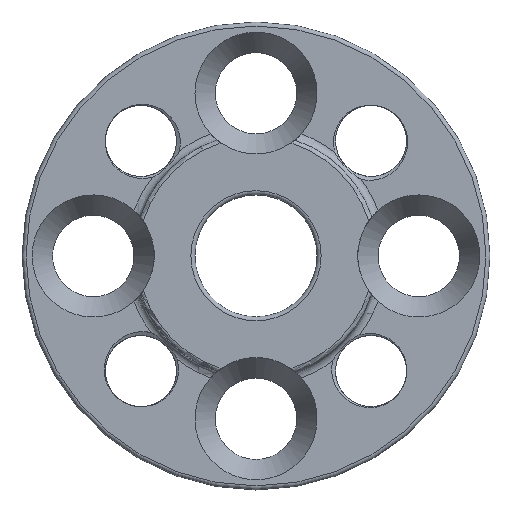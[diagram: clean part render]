
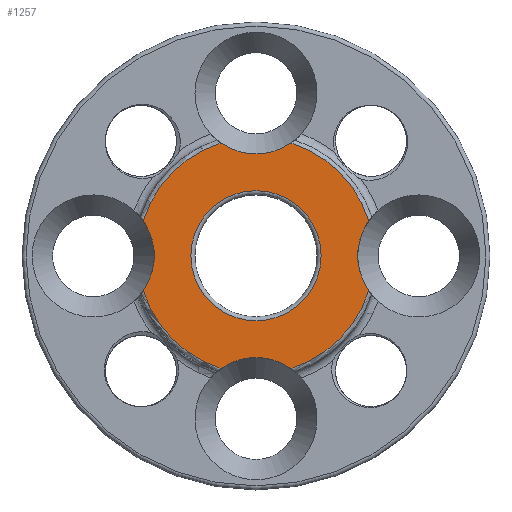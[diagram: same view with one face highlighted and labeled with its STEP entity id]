
A CAD part, top view. The second image highlights one B-rep face of the part: STEP entity #1257.
In plain terms, the highlighted planar face has unit normal (0, 0, 1).
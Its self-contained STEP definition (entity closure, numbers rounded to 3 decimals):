
#412=CARTESIAN_POINT('',(3.2,0.,8.));
#413=VERTEX_POINT('',#412);
#431=CARTESIAN_POINT('',(0.,0.,8.));
#432=DIRECTION('',(1.,0.,-0.));
#433=DIRECTION('',(0.,0.,-1.));
#434=AXIS2_PLACEMENT_3D('',#431,#433,#432);
#435=CIRCLE('',#434,3.2);
#436=EDGE_CURVE('',#413,#413,#435,.T.);
#478=CARTESIAN_POINT('',(5.54,-1.717,8.));
#479=VERTEX_POINT('',#478);
#491=CARTESIAN_POINT('',(5.54,1.717,8.));
#492=VERTEX_POINT('',#491);
#493=CARTESIAN_POINT('',(8.,0.,8.));
#494=DIRECTION('',(-0.82,0.572,0.));
#495=DIRECTION('',(-0.,0.,1.));
#496=AXIS2_PLACEMENT_3D('',#493,#495,#494);
#497=CIRCLE('',#496,3.);
#498=EDGE_CURVE('',#492,#479,#497,.T.);
#683=CARTESIAN_POINT('',(-5.54,1.717,8.));
#684=VERTEX_POINT('',#683);
#694=CARTESIAN_POINT('',(-5.54,-1.717,8.));
#695=VERTEX_POINT('',#694);
#696=CARTESIAN_POINT('',(-8.,0.,8.));
#697=DIRECTION('',(0.82,-0.572,0.));
#698=DIRECTION('',(0.,0.,1.));
#699=AXIS2_PLACEMENT_3D('',#696,#698,#697);
#700=CIRCLE('',#699,3.);
#701=EDGE_CURVE('',#695,#684,#700,.T.);
#862=CARTESIAN_POINT('',(-1.717,5.54,8.));
#863=VERTEX_POINT('',#862);
#864=CARTESIAN_POINT('',(0.,0.,8.));
#865=DIRECTION('',(-0.955,0.296,0.));
#866=DIRECTION('',(0.,0.,-1.));
#867=AXIS2_PLACEMENT_3D('',#864,#866,#865);
#868=CIRCLE('',#867,5.8);
#869=EDGE_CURVE('',#684,#863,#868,.T.);
#898=CARTESIAN_POINT('',(1.717,5.54,8.));
#899=VERTEX_POINT('',#898);
#911=CARTESIAN_POINT('',(0.,0.,8.));
#912=DIRECTION('',(0.296,0.955,0.));
#913=DIRECTION('',(0.,-0.,-1.));
#914=AXIS2_PLACEMENT_3D('',#911,#913,#912);
#915=CIRCLE('',#914,5.8);
#916=EDGE_CURVE('',#899,#492,#915,.T.);
#1000=CARTESIAN_POINT('',(0.,8.,8.));
#1001=DIRECTION('',(-0.572,-0.82,0.));
#1002=DIRECTION('',(-0.,-0.,1.));
#1003=AXIS2_PLACEMENT_3D('',#1000,#1002,#1001);
#1004=CIRCLE('',#1003,3.);
#1005=EDGE_CURVE('',#863,#899,#1004,.T.);
#1149=CARTESIAN_POINT('',(1.717,-5.54,8.));
#1150=VERTEX_POINT('',#1149);
#1151=CARTESIAN_POINT('',(0.,0.,8.));
#1152=DIRECTION('',(0.955,-0.296,0.));
#1153=DIRECTION('',(-0.,0.,-1.));
#1154=AXIS2_PLACEMENT_3D('',#1151,#1153,#1152);
#1155=CIRCLE('',#1154,5.8);
#1156=EDGE_CURVE('',#479,#1150,#1155,.T.);
#1187=CARTESIAN_POINT('',(-1.717,-5.54,8.));
#1188=VERTEX_POINT('',#1187);
#1198=CARTESIAN_POINT('',(0.,0.,8.));
#1199=DIRECTION('',(-0.296,-0.955,0.));
#1200=DIRECTION('',(0.,0.,-1.));
#1201=AXIS2_PLACEMENT_3D('',#1198,#1200,#1199);
#1202=CIRCLE('',#1201,5.8);
#1203=EDGE_CURVE('',#1188,#695,#1202,.T.);
#1233=CARTESIAN_POINT('',(-3.081,0.,8.));
#1234=DIRECTION('',(1.,0.,0.));
#1235=DIRECTION('',(0.,0.,1.));
#1236=AXIS2_PLACEMENT_3D('',#1233,#1235,#1234);
#1237=PLANE('',#1236);
#1238=ORIENTED_EDGE('',*,*,#1156,.F.);
#1239=ORIENTED_EDGE('',*,*,#498,.F.);
#1240=ORIENTED_EDGE('',*,*,#916,.F.);
#1241=ORIENTED_EDGE('',*,*,#1005,.F.);
#1242=ORIENTED_EDGE('',*,*,#869,.F.);
#1243=ORIENTED_EDGE('',*,*,#701,.F.);
#1244=ORIENTED_EDGE('',*,*,#1203,.F.);
#1245=CARTESIAN_POINT('',(0.,-8.,8.));
#1246=DIRECTION('',(-0.572,0.82,0.));
#1247=DIRECTION('',(0.,0.,-1.));
#1248=AXIS2_PLACEMENT_3D('',#1245,#1247,#1246);
#1249=CIRCLE('',#1248,3.);
#1250=EDGE_CURVE('',#1188,#1150,#1249,.T.);
#1251=ORIENTED_EDGE('E82',*,*,#1250,.T.);
#1252=EDGE_LOOP('',(#1238,#1239,#1240,#1241,#1242,#1243,#1244,#1251));
#1253=FACE_OUTER_BOUND('',#1252,.T.);
#1254=ORIENTED_EDGE('',*,*,#436,.T.);
#1255=EDGE_LOOP('',(#1254));
#1256=FACE_BOUND('',#1255,.T.);
#1257=ADVANCED_FACE('F2',(#1253,#1256),#1237,.T.);
